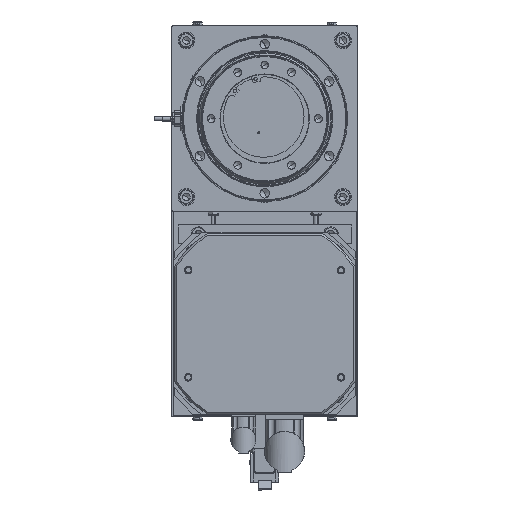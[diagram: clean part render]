
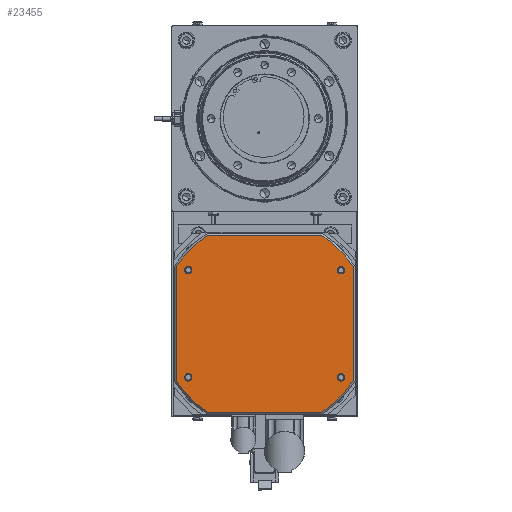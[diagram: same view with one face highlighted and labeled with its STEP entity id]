
A CAD part, front view. The second image highlights one B-rep face of the part: STEP entity #23455.
In plain terms, the highlighted planar face has unit normal (0, -1, 0).
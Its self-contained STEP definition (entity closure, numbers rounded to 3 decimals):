
#46 = ORIENTED_EDGE ( 'NONE', *, *, #37334, .F. ) ;
#366 = ORIENTED_EDGE ( 'NONE', *, *, #41564, .T. ) ;
#471 = VERTEX_POINT ( 'NONE', #2152 ) ;
#550 = CARTESIAN_POINT ( 'NONE',  ( 97.207, 249., -224.75 ) ) ;
#1428 = FACE_OUTER_BOUND ( 'NONE', #51524, .T. ) ;
#2019 = DIRECTION ( 'NONE',  ( 0., -1., 0. ) ) ;
#2152 = CARTESIAN_POINT ( 'NONE',  ( 38.592, 249., -414.75 ) ) ;
#2776 = DIRECTION ( 'NONE',  ( 1., 0., 0. ) ) ;
#3304 = ORIENTED_EDGE ( 'NONE', *, *, #7562, .T. ) ;
#3588 = VERTEX_POINT ( 'NONE', #16269 ) ;
#3797 = EDGE_CURVE ( 'NONE', #11064, #8821, #36002, .T. ) ;
#4312 = CIRCLE ( 'NONE', #13072, 4. ) ;
#5827 = DIRECTION ( 'NONE',  ( 0., -1., 0. ) ) ;
#6349 = CARTESIAN_POINT ( 'NONE',  ( 17.75, 249., -262.25 ) ) ;
#6522 = AXIS2_PLACEMENT_3D ( 'NONE', #48631, #31930, #39931 ) ;
#6870 = ORIENTED_EDGE ( 'NONE', *, *, #17478, .T. ) ;
#7182 = CARTESIAN_POINT ( 'NONE',  ( 17.75, 249., -381.25 ) ) ;
#7558 = ORIENTED_EDGE ( 'NONE', *, *, #25500, .F. ) ;
#7562 = EDGE_CURVE ( 'NONE', #20927, #17537, #39242, .T. ) ;
#8821 = VERTEX_POINT ( 'NONE', #17585 ) ;
#9170 = VECTOR ( 'NONE', #42539, 1000. ) ;
#9232 = LINE ( 'NONE', #14116, #9170 ) ;
#9405 = AXIS2_PLACEMENT_3D ( 'NONE', #12376, #40130, #24184 ) ;
#10079 = ORIENTED_EDGE ( 'NONE', *, *, #42297, .F. ) ;
#10303 = DIRECTION ( 'NONE',  ( 0., 0., 1. ) ) ;
#10686 = DIRECTION ( 'NONE',  ( 0., -1., 0. ) ) ;
#10754 = VERTEX_POINT ( 'NONE', #23238 ) ;
#11064 = VERTEX_POINT ( 'NONE', #42863 ) ;
#11564 = CARTESIAN_POINT ( 'NONE',  ( 181.75, 249., -262.25 ) ) ;
#12376 = CARTESIAN_POINT ( 'NONE',  ( 17.75, 249., -262.25 ) ) ;
#13072 = AXIS2_PLACEMENT_3D ( 'NONE', #13887, #17881, #13378 ) ;
#13378 = DIRECTION ( 'NONE',  ( 0., 0., 1. ) ) ;
#13618 = EDGE_CURVE ( 'NONE', #17537, #3588, #9232, .T. ) ;
#13806 = FACE_BOUND ( 'NONE', #30314, .T. ) ;
#13856 = CARTESIAN_POINT ( 'NONE',  ( 181.75, 249., -258.25 ) ) ;
#13887 = CARTESIAN_POINT ( 'NONE',  ( 181.75, 249., -262.25 ) ) ;
#14116 = CARTESIAN_POINT ( 'NONE',  ( 194.75, 249., -317.207 ) ) ;
#14182 = AXIS2_PLACEMENT_3D ( 'NONE', #34624, #38988, #38648 ) ;
#14223 = VERTEX_POINT ( 'NONE', #34859 ) ;
#14281 = DIRECTION ( 'NONE',  ( 0., -1., 0. ) ) ;
#14576 = CARTESIAN_POINT ( 'NONE',  ( 4.75, 249., -258.592 ) ) ;
#15171 = EDGE_CURVE ( 'NONE', #15327, #42170, #46306, .T. ) ;
#15327 = VERTEX_POINT ( 'NONE', #14576 ) ;
#15483 = CARTESIAN_POINT ( 'NONE',  ( 4.75, 249., -380.908 ) ) ;
#15881 = VERTEX_POINT ( 'NONE', #34476 ) ;
#16000 = DIRECTION ( 'NONE',  ( 0., 0., 1. ) ) ;
#16215 = DIRECTION ( 'NONE',  ( 0., 0., 1. ) ) ;
#16269 = CARTESIAN_POINT ( 'NONE',  ( 194.75, 249., -258.592 ) ) ;
#16542 = EDGE_CURVE ( 'NONE', #22583, #15327, #17651, .T. ) ;
#16593 = AXIS2_PLACEMENT_3D ( 'NONE', #21088, #5827, #41044 ) ;
#16687 = AXIS2_PLACEMENT_3D ( 'NONE', #18862, #19214, #26700 ) ;
#16880 = LINE ( 'NONE', #550, #36732 ) ;
#16948 = FACE_BOUND ( 'NONE', #22210, .T. ) ;
#17478 = EDGE_CURVE ( 'NONE', #14223, #22583, #16880, .T. ) ;
#17537 = VERTEX_POINT ( 'NONE', #41458 ) ;
#17585 = CARTESIAN_POINT ( 'NONE',  ( 181.75, 249., -381.25 ) ) ;
#17651 = CIRCLE ( 'NONE', #29644, 116.5 ) ;
#17881 = DIRECTION ( 'NONE',  ( 0., -1., 0. ) ) ;
#18247 = ORIENTED_EDGE ( 'NONE', *, *, #40433, .F. ) ;
#18420 = DIRECTION ( 'NONE',  ( 0., 1., 0. ) ) ;
#18622 = CIRCLE ( 'NONE', #47252, 4. ) ;
#18862 = CARTESIAN_POINT ( 'NONE',  ( 102.293, 249., -317.207 ) ) ;
#19214 = DIRECTION ( 'NONE',  ( 0., -1., 0. ) ) ;
#20687 = DIRECTION ( 'NONE',  ( 0., 0., -1. ) ) ;
#20927 = VERTEX_POINT ( 'NONE', #39694 ) ;
#21088 = CARTESIAN_POINT ( 'NONE',  ( 17.75, 249., -377.25 ) ) ;
#21209 = ORIENTED_EDGE ( 'NONE', *, *, #16542, .T. ) ;
#22210 = EDGE_LOOP ( 'NONE', ( #42929, #18247 ) ) ;
#22583 = VERTEX_POINT ( 'NONE', #42693 ) ;
#22972 = ORIENTED_EDGE ( 'NONE', *, *, #50884, .F. ) ;
#23220 = CIRCLE ( 'NONE', #14182, 4. ) ;
#23238 = CARTESIAN_POINT ( 'NONE',  ( 17.75, 249., -258.25 ) ) ;
#23373 = DIRECTION ( 'NONE',  ( 0., -1., 0. ) ) ;
#23455 = ADVANCED_FACE ( 'NONE', ( #1428, #16948, #13806, #28121, #47320 ), #38376, .F. ) ;
#24184 = DIRECTION ( 'NONE',  ( 0., 0., 1. ) ) ;
#24317 = CIRCLE ( 'NONE', #33370, 4. ) ;
#25302 = ORIENTED_EDGE ( 'NONE', *, *, #42114, .F. ) ;
#25500 = EDGE_CURVE ( 'NONE', #25668, #37028, #18622, .T. ) ;
#25668 = VERTEX_POINT ( 'NONE', #45016 ) ;
#26236 = EDGE_CURVE ( 'NONE', #471, #20927, #29167, .T. ) ;
#26700 = DIRECTION ( 'NONE',  ( 0., 0., 1. ) ) ;
#27304 = CIRCLE ( 'NONE', #16593, 4. ) ;
#27516 = ORIENTED_EDGE ( 'NONE', *, *, #41833, .T. ) ;
#28121 = FACE_BOUND ( 'NONE', #47905, .T. ) ;
#28244 = CARTESIAN_POINT ( 'NONE',  ( 97.207, 249., -322.293 ) ) ;
#28498 = DIRECTION ( 'NONE',  ( -1., 0., 0. ) ) ;
#29167 = LINE ( 'NONE', #46483, #48973 ) ;
#29644 = AXIS2_PLACEMENT_3D ( 'NONE', #38071, #14281, #45871 ) ;
#30258 = DIRECTION ( 'NONE',  ( 0., 0., 1. ) ) ;
#30314 = EDGE_LOOP ( 'NONE', ( #10079, #25302 ) ) ;
#31930 = DIRECTION ( 'NONE',  ( 0., -1., 0. ) ) ;
#32050 = CIRCLE ( 'NONE', #44998, 4. ) ;
#32189 = CARTESIAN_POINT ( 'NONE',  ( 181.75, 249., -266.25 ) ) ;
#32324 = DIRECTION ( 'NONE',  ( 0., -1., 0. ) ) ;
#33370 = AXIS2_PLACEMENT_3D ( 'NONE', #11564, #23373, #16215 ) ;
#34377 = ORIENTED_EDGE ( 'NONE', *, *, #46940, .F. ) ;
#34471 = CIRCLE ( 'NONE', #9405, 4. ) ;
#34476 = CARTESIAN_POINT ( 'NONE',  ( 17.75, 249., -266.25 ) ) ;
#34522 = CARTESIAN_POINT ( 'NONE',  ( 97.207, 249., -317.207 ) ) ;
#34624 = CARTESIAN_POINT ( 'NONE',  ( 181.75, 249., -377.25 ) ) ;
#34859 = CARTESIAN_POINT ( 'NONE',  ( 160.908, 249., -224.75 ) ) ;
#35719 = VECTOR ( 'NONE', #20687, 1000. ) ;
#35950 = CARTESIAN_POINT ( 'NONE',  ( 17.75, 249., -377.25 ) ) ;
#36002 = CIRCLE ( 'NONE', #37209, 4. ) ;
#36732 = VECTOR ( 'NONE', #28498, 1000. ) ;
#37028 = VERTEX_POINT ( 'NONE', #7182 ) ;
#37036 = CIRCLE ( 'NONE', #16687, 116.5 ) ;
#37209 = AXIS2_PLACEMENT_3D ( 'NONE', #37948, #10686, #49779 ) ;
#37334 = EDGE_CURVE ( 'NONE', #41430, #38185, #4312, .T. ) ;
#37948 = CARTESIAN_POINT ( 'NONE',  ( 181.75, 249., -377.25 ) ) ;
#38071 = CARTESIAN_POINT ( 'NONE',  ( 102.293, 249., -322.293 ) ) ;
#38185 = VERTEX_POINT ( 'NONE', #32189 ) ;
#38376 = PLANE ( 'NONE',  #48190 ) ;
#38648 = DIRECTION ( 'NONE',  ( 0., 0., 1. ) ) ;
#38861 = EDGE_LOOP ( 'NONE', ( #7558, #34377 ) ) ;
#38988 = DIRECTION ( 'NONE',  ( 0., -1., 0. ) ) ;
#39242 = CIRCLE ( 'NONE', #6522, 116.5 ) ;
#39642 = AXIS2_PLACEMENT_3D ( 'NONE', #28244, #44206, #41218 ) ;
#39694 = CARTESIAN_POINT ( 'NONE',  ( 160.908, 249., -414.75 ) ) ;
#39931 = DIRECTION ( 'NONE',  ( 0., 0., 1. ) ) ;
#40130 = DIRECTION ( 'NONE',  ( 0., -1., 0. ) ) ;
#40433 = EDGE_CURVE ( 'NONE', #8821, #11064, #23220, .T. ) ;
#41044 = DIRECTION ( 'NONE',  ( 0., 0., 1. ) ) ;
#41218 = DIRECTION ( 'NONE',  ( 0., 0., 1. ) ) ;
#41339 = ORIENTED_EDGE ( 'NONE', *, *, #13618, .T. ) ;
#41430 = VERTEX_POINT ( 'NONE', #13856 ) ;
#41458 = CARTESIAN_POINT ( 'NONE',  ( 194.75, 249., -380.908 ) ) ;
#41564 = EDGE_CURVE ( 'NONE', #42170, #471, #37036, .T. ) ;
#41833 = EDGE_CURVE ( 'NONE', #3588, #14223, #49478, .T. ) ;
#41997 = CARTESIAN_POINT ( 'NONE',  ( 4.75, 249., -317.207 ) ) ;
#42114 = EDGE_CURVE ( 'NONE', #15881, #10754, #32050, .T. ) ;
#42170 = VERTEX_POINT ( 'NONE', #15483 ) ;
#42216 = ORIENTED_EDGE ( 'NONE', *, *, #26236, .T. ) ;
#42297 = EDGE_CURVE ( 'NONE', #10754, #15881, #34471, .T. ) ;
#42539 = DIRECTION ( 'NONE',  ( 0., 0., 1. ) ) ;
#42693 = CARTESIAN_POINT ( 'NONE',  ( 38.592, 249., -224.75 ) ) ;
#42863 = CARTESIAN_POINT ( 'NONE',  ( 181.75, 249., -373.25 ) ) ;
#42929 = ORIENTED_EDGE ( 'NONE', *, *, #3797, .F. ) ;
#43972 = ORIENTED_EDGE ( 'NONE', *, *, #15171, .T. ) ;
#44206 = DIRECTION ( 'NONE',  ( 0., -1., 0. ) ) ;
#44998 = AXIS2_PLACEMENT_3D ( 'NONE', #6349, #2019, #10303 ) ;
#45016 = CARTESIAN_POINT ( 'NONE',  ( 17.75, 249., -373.25 ) ) ;
#45871 = DIRECTION ( 'NONE',  ( 0., 0., 1. ) ) ;
#46306 = LINE ( 'NONE', #41997, #35719 ) ;
#46483 = CARTESIAN_POINT ( 'NONE',  ( 97.207, 249., -414.75 ) ) ;
#46940 = EDGE_CURVE ( 'NONE', #37028, #25668, #27304, .T. ) ;
#47252 = AXIS2_PLACEMENT_3D ( 'NONE', #35950, #32324, #16000 ) ;
#47320 = FACE_BOUND ( 'NONE', #38861, .T. ) ;
#47905 = EDGE_LOOP ( 'NONE', ( #46, #22972 ) ) ;
#48190 = AXIS2_PLACEMENT_3D ( 'NONE', #34522, #18420, #30258 ) ;
#48631 = CARTESIAN_POINT ( 'NONE',  ( 97.207, 249., -317.207 ) ) ;
#48973 = VECTOR ( 'NONE', #2776, 1000. ) ;
#49478 = CIRCLE ( 'NONE', #39642, 116.5 ) ;
#49779 = DIRECTION ( 'NONE',  ( 0., 0., 1. ) ) ;
#50884 = EDGE_CURVE ( 'NONE', #38185, #41430, #24317, .T. ) ;
#51524 = EDGE_LOOP ( 'NONE', ( #366, #42216, #3304, #41339, #27516, #6870, #21209, #43972 ) ) ;
